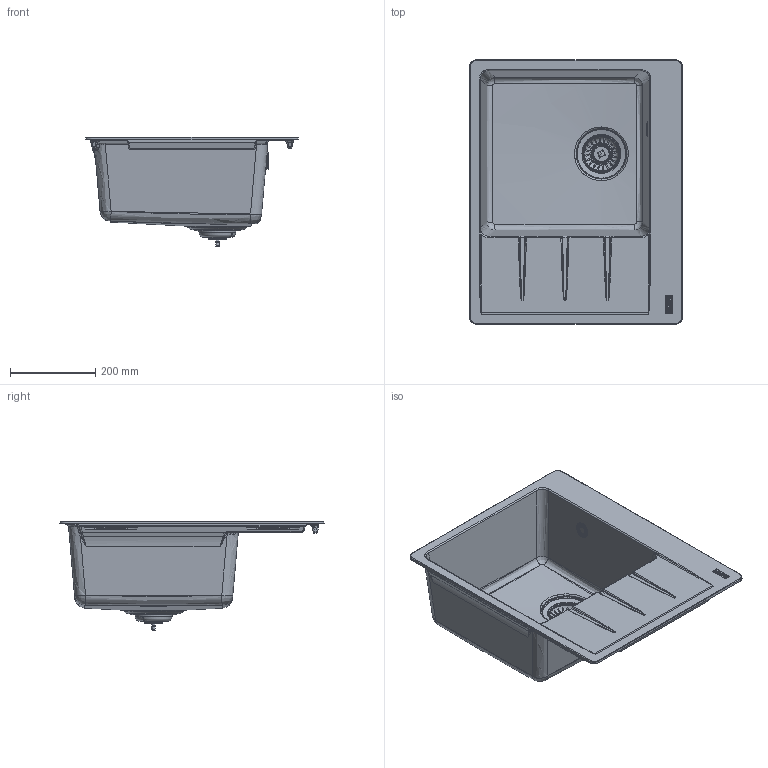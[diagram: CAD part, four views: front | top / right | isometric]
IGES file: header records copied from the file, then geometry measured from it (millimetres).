
Global section: file name: F:\_CONVERSIONE_CAD_2024_2025\_2024\03_3D kits new\Sinks\CENTRO\3D001_Sinks_Centro_CNG-611-62-RHD\3D001_Sinks_Centro_CNG-611-62-RHD.igs; native system: Rhinoceros ( Feb 13 2024 ); preprocessor: Trout Lake IGES 012 Feb 13 2024; date: 240314.085945; units: millimetre
Bounding box: 500 x 620 x 256.58 mm (x, y, z)
Surface area: 1219015.8 mm2 (no closed solid volume)
Topology: 0 solids, 0 shells, 1885 faces, 11631 edges, 11549 vertices
Faces by surface type: bspline 1885
